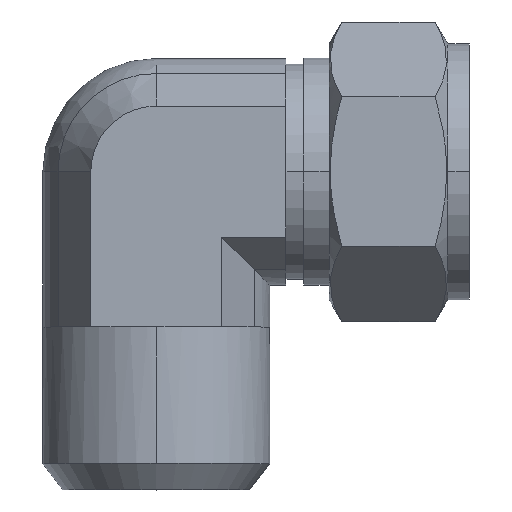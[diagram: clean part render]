
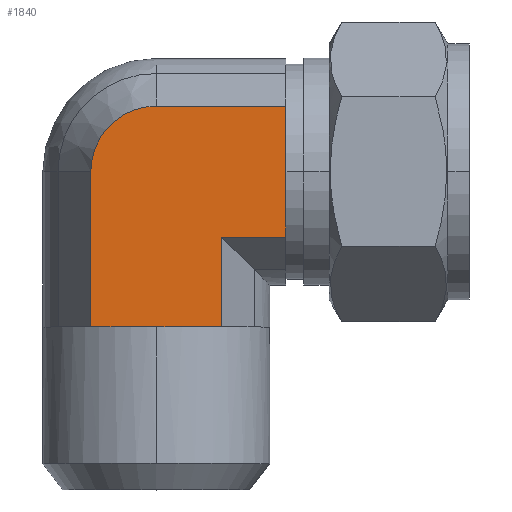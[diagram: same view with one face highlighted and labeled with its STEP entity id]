
A CAD part, top view. The second image highlights one B-rep face of the part: STEP entity #1840.
In plain terms, the highlighted planar face has unit normal (0, 0, 1).
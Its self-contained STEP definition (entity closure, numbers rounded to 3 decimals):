
#28 = VERTEX_POINT ( 'NONE', #253 ) ;
#138 = ORIENTED_EDGE ( 'NONE', *, *, #1836, .T. ) ;
#155 = EDGE_CURVE ( 'NONE', #156, #28, #631, .T. ) ;
#156 = VERTEX_POINT ( 'NONE', #627 ) ;
#253 = CARTESIAN_POINT ( 'NONE',  ( -1.291, -22.8, 16.65 ) ) ;
#455 = VERTEX_POINT ( 'NONE', #1223 ) ;
#627 = CARTESIAN_POINT ( 'NONE',  ( -9.613, -22.8, 16.65 ) ) ;
#628 = DIRECTION ( 'NONE',  ( 1., 0., 0. ) ) ;
#629 = VECTOR ( 'NONE', #628, 1000. ) ;
#630 = CARTESIAN_POINT ( 'NONE',  ( -9.613, -22.8, 16.65 ) ) ;
#631 = LINE ( 'NONE', #630, #629 ) ;
#1223 = CARTESIAN_POINT ( 'NONE',  ( 1.291, -22.8, 16.65 ) ) ;
#1291 = DIRECTION ( 'NONE',  ( 1., 0., 0. ) ) ;
#1292 = VECTOR ( 'NONE', #1291, 1000. ) ;
#1293 = CARTESIAN_POINT ( 'NONE',  ( -9.613, -22.8, 16.65 ) ) ;
#1294 = LINE ( 'NONE', #1293, #1292 ) ;
#1295 = DIRECTION ( 'NONE',  ( 0., 1., 0. ) ) ;
#1296 = VECTOR ( 'NONE', #1295, 1000. ) ;
#1297 = CARTESIAN_POINT ( 'NONE',  ( -9.613, -22.8, 16.65 ) ) ;
#1298 = LINE ( 'NONE', #1297, #1296 ) ;
#1380 = LINE ( 'NONE', #1465, #1464 ) ;
#1381 = FACE_OUTER_BOUND ( 'NONE', #1841, .T. ) ;
#1386 = DIRECTION ( 'NONE',  ( 1., 0., 0. ) ) ;
#1387 = VECTOR ( 'NONE', #1386, 1000. ) ;
#1388 = CARTESIAN_POINT ( 'NONE',  ( -9.613, -22.8, 16.65 ) ) ;
#1389 = LINE ( 'NONE', #1388, #1387 ) ;
#1390 = CARTESIAN_POINT ( 'NONE',  ( 9.613, -22.8, 16.65 ) ) ;
#1395 = CARTESIAN_POINT ( 'NONE',  ( 19.05, 9.613, 16.65 ) ) ;
#1396 = DIRECTION ( 'NONE',  ( -1., 0., 0. ) ) ;
#1397 = VECTOR ( 'NONE', #1396, 1000. ) ;
#1398 = CARTESIAN_POINT ( 'NONE',  ( 19.05, 9.613, 16.65 ) ) ;
#1399 = LINE ( 'NONE', #1398, #1397 ) ;
#1400 = CARTESIAN_POINT ( 'NONE',  ( 0., 9.613, 16.65 ) ) ;
#1458 = DIRECTION ( 'NONE',  ( -1., 0., 0. ) ) ;
#1459 = VECTOR ( 'NONE', #1458, 1000. ) ;
#1460 = CARTESIAN_POINT ( 'NONE',  ( 19.05, -9.613, 16.65 ) ) ;
#1461 = LINE ( 'NONE', #1460, #1459 ) ;
#1462 = CARTESIAN_POINT ( 'NONE',  ( 9.613, -9.613, 16.65 ) ) ;
#1463 = DIRECTION ( 'NONE',  ( 0., 1., 0. ) ) ;
#1464 = VECTOR ( 'NONE', #1463, 1000. ) ;
#1465 = CARTESIAN_POINT ( 'NONE',  ( 9.613, -22.8, 16.65 ) ) ;
#1466 = DIRECTION ( 'NONE',  ( 0., 1., 0. ) ) ;
#1467 = DIRECTION ( 'NONE',  ( 0., 0., -1. ) ) ;
#1468 = CARTESIAN_POINT ( 'NONE',  ( 19.05, 9.613, 16.65 ) ) ;
#1469 = AXIS2_PLACEMENT_3D ( 'NONE', #1468, #1467, #1466 ) ;
#1470 = PLANE ( 'NONE',  #1469 ) ;
#1560 = CARTESIAN_POINT ( 'NONE',  ( -9.613, 0., 16.65 ) ) ;
#1561 = DIRECTION ( 'NONE',  ( 0., 1., 0. ) ) ;
#1562 = DIRECTION ( 'NONE',  ( 0., 0., -1. ) ) ;
#1596 = CARTESIAN_POINT ( 'NONE',  ( 0., 0., 16.65 ) ) ;
#1597 = AXIS2_PLACEMENT_3D ( 'NONE', #1596, #1562, #1561 ) ;
#1598 = CIRCLE ( 'NONE', #1597, 9.613 ) ;
#1599 = DIRECTION ( 'NONE',  ( 0., -1., 0. ) ) ;
#1600 = VECTOR ( 'NONE', #1599, 1000. ) ;
#1601 = CARTESIAN_POINT ( 'NONE',  ( 19.05, 9.613, 16.65 ) ) ;
#1602 = LINE ( 'NONE', #1601, #1600 ) ;
#1603 = CARTESIAN_POINT ( 'NONE',  ( 19.05, -9.613, 16.65 ) ) ;
#1812 = ORIENTED_EDGE ( 'NONE', *, *, #1813, .F. ) ;
#1813 = EDGE_CURVE ( 'NONE', #156, #2012, #1298, .T. ) ;
#1814 = ORIENTED_EDGE ( 'NONE', *, *, #155, .T. ) ;
#1815 = ORIENTED_EDGE ( 'NONE', *, *, #1816, .T. ) ;
#1816 = EDGE_CURVE ( 'NONE', #28, #455, #1294, .T. ) ;
#1826 = VERTEX_POINT ( 'NONE', #1400 ) ;
#1828 = EDGE_CURVE ( 'NONE', #1829, #1826, #1399, .T. ) ;
#1829 = VERTEX_POINT ( 'NONE', #1395 ) ;
#1834 = VERTEX_POINT ( 'NONE', #1390 ) ;
#1836 = EDGE_CURVE ( 'NONE', #455, #1834, #1389, .T. ) ;
#1840 = ADVANCED_FACE ( 'NONE', ( #1381 ), #1470, .F. ) ;
#1841 = EDGE_LOOP ( 'NONE', ( #1842, #1845, #2007, #2009, #2010, #1812, #1814, #1815, #138 ) ) ;
#1842 = ORIENTED_EDGE ( 'NONE', *, *, #1843, .T. ) ;
#1843 = EDGE_CURVE ( 'NONE', #1834, #1844, #1380, .T. ) ;
#1844 = VERTEX_POINT ( 'NONE', #1462 ) ;
#1845 = ORIENTED_EDGE ( 'NONE', *, *, #1846, .F. ) ;
#1846 = EDGE_CURVE ( 'NONE', #2006, #1844, #1461, .T. ) ;
#2006 = VERTEX_POINT ( 'NONE', #1603 ) ;
#2007 = ORIENTED_EDGE ( 'NONE', *, *, #2008, .F. ) ;
#2008 = EDGE_CURVE ( 'NONE', #1829, #2006, #1602, .T. ) ;
#2009 = ORIENTED_EDGE ( 'NONE', *, *, #1828, .T. ) ;
#2010 = ORIENTED_EDGE ( 'NONE', *, *, #2011, .F. ) ;
#2011 = EDGE_CURVE ( 'NONE', #2012, #1826, #1598, .T. ) ;
#2012 = VERTEX_POINT ( 'NONE', #1560 ) ;
